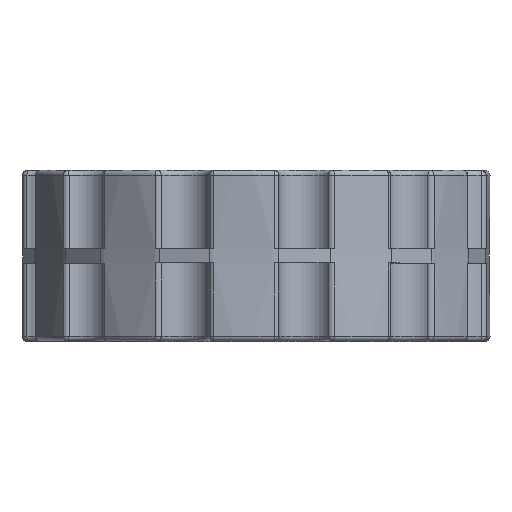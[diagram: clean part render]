
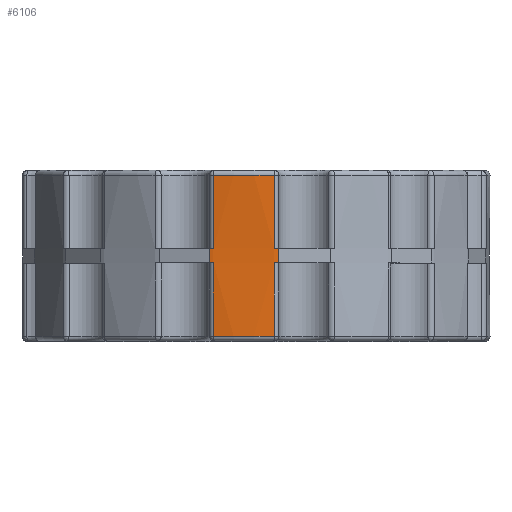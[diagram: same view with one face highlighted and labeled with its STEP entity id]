
A CAD part, top view. The second image highlights one B-rep face of the part: STEP entity #6106.
In plain terms, the highlighted cylindrical face has radius 47.95 mm (diameter 95.9 mm), a partial arc.
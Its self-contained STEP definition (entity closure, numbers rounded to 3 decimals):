
#572=LINE('',#10282,#1094);
#573=LINE('',#10287,#1095);
#574=LINE('',#10291,#1096);
#575=LINE('',#10295,#1097);
#576=LINE('',#10299,#1098);
#577=LINE('',#10303,#1099);
#1094=VECTOR('',#7830,1000.);
#1095=VECTOR('',#7833,1000.);
#1096=VECTOR('',#7836,1000.);
#1097=VECTOR('',#7839,1000.);
#1098=VECTOR('',#7842,1000.);
#1099=VECTOR('',#7845,1000.);
#1834=ORIENTED_EDGE('',*,*,#3661,.T.);
#1835=ORIENTED_EDGE('',*,*,#3662,.T.);
#1836=ORIENTED_EDGE('',*,*,#3663,.T.);
#1837=ORIENTED_EDGE('',*,*,#3664,.T.);
#1838=ORIENTED_EDGE('',*,*,#3665,.T.);
#1839=ORIENTED_EDGE('',*,*,#3666,.T.);
#1840=ORIENTED_EDGE('',*,*,#3667,.F.);
#1841=ORIENTED_EDGE('',*,*,#3668,.T.);
#1842=ORIENTED_EDGE('',*,*,#3669,.T.);
#1843=ORIENTED_EDGE('',*,*,#3670,.T.);
#1844=ORIENTED_EDGE('',*,*,#3671,.T.);
#1845=ORIENTED_EDGE('',*,*,#3672,.T.);
#3661=EDGE_CURVE('',#4558,#4559,#572,.T.);
#3662=EDGE_CURVE('',#4559,#4560,#4945,.F.);
#3663=EDGE_CURVE('',#4560,#4561,#573,.T.);
#3664=EDGE_CURVE('',#4561,#4562,#4946,.F.);
#3665=EDGE_CURVE('',#4562,#4563,#574,.F.);
#3666=EDGE_CURVE('',#4563,#4564,#4947,.F.);
#3667=EDGE_CURVE('',#4565,#4564,#575,.T.);
#3668=EDGE_CURVE('',#4565,#4566,#4948,.T.);
#3669=EDGE_CURVE('',#4566,#4567,#576,.F.);
#3670=EDGE_CURVE('',#4567,#4568,#4949,.T.);
#3671=EDGE_CURVE('',#4568,#4569,#577,.T.);
#3672=EDGE_CURVE('',#4569,#4558,#4950,.T.);
#4558=VERTEX_POINT('',#10283);
#4559=VERTEX_POINT('',#10284);
#4560=VERTEX_POINT('',#10286);
#4561=VERTEX_POINT('',#10288);
#4562=VERTEX_POINT('',#10290);
#4563=VERTEX_POINT('',#10292);
#4564=VERTEX_POINT('',#10294);
#4565=VERTEX_POINT('',#10296);
#4566=VERTEX_POINT('',#10298);
#4567=VERTEX_POINT('',#10300);
#4568=VERTEX_POINT('',#10302);
#4569=VERTEX_POINT('',#10304);
#4945=CIRCLE('',#6676,47.95);
#4946=CIRCLE('',#6677,47.95);
#4947=CIRCLE('',#6678,47.95);
#4948=CIRCLE('',#6679,47.95);
#4949=CIRCLE('',#6680,47.95);
#4950=CIRCLE('',#6681,47.95);
#5204=EDGE_LOOP('',(#1834,#1835,#1836,#1837,#1838,#1839,#1840,#1841,#1842,
#1843,#1844,#1845));
#5622=FACE_BOUND('',#5204,.T.);
#5998=CYLINDRICAL_SURFACE('',#6675,47.95);
#6106=ADVANCED_FACE('',(#5622),#5998,.T.);
#6675=AXIS2_PLACEMENT_3D('',#10281,#7828,#7829);
#6676=AXIS2_PLACEMENT_3D('',#10285,#7831,#7832);
#6677=AXIS2_PLACEMENT_3D('',#10289,#7834,#7835);
#6678=AXIS2_PLACEMENT_3D('',#10293,#7837,#7838);
#6679=AXIS2_PLACEMENT_3D('',#10297,#7840,#7841);
#6680=AXIS2_PLACEMENT_3D('',#10301,#7843,#7844);
#6681=AXIS2_PLACEMENT_3D('',#10305,#7846,#7847);
#7828=DIRECTION('',(0.,1.,0.));
#7829=DIRECTION('',(0.,0.,1.));
#7830=DIRECTION('',(0.,1.,0.));
#7831=DIRECTION('',(0.,1.,0.));
#7832=DIRECTION('',(0.,0.,1.));
#7833=DIRECTION('',(0.,1.,0.));
#7834=DIRECTION('',(0.,1.,0.));
#7835=DIRECTION('',(0.,0.,1.));
#7836=DIRECTION('',(0.,1.,0.));
#7837=DIRECTION('',(0.,1.,0.));
#7838=DIRECTION('',(0.,0.,1.));
#7839=DIRECTION('',(0.,1.,0.));
#7840=DIRECTION('',(0.,1.,0.));
#7841=DIRECTION('',(0.,0.,1.));
#7842=DIRECTION('',(0.,1.,0.));
#7843=DIRECTION('',(0.,1.,0.));
#7844=DIRECTION('',(0.,0.,1.));
#7845=DIRECTION('',(0.,1.,0.));
#7846=DIRECTION('',(0.,1.,0.));
#7847=DIRECTION('',(0.,0.,1.));
#10281=CARTESIAN_POINT('',(0.,-17.5,0.));
#10282=CARTESIAN_POINT('',(4.616,-1.5,47.727));
#10283=CARTESIAN_POINT('',(4.616,-1.5,47.727));
#10284=CARTESIAN_POINT('',(4.616,1.5,47.727));
#10285=CARTESIAN_POINT('',(0.,1.5,0.));
#10286=CARTESIAN_POINT('',(3.738,1.5,47.804));
#10287=CARTESIAN_POINT('',(3.738,-17.5,47.804));
#10288=CARTESIAN_POINT('',(3.738,16.5,47.804));
#10289=CARTESIAN_POINT('',(0.,16.5,0.));
#10290=CARTESIAN_POINT('',(-8.714,16.5,47.152));
#10291=CARTESIAN_POINT('',(-8.714,-17.5,47.152));
#10292=CARTESIAN_POINT('',(-8.714,1.5,47.152));
#10293=CARTESIAN_POINT('',(0.,1.5,0.));
#10294=CARTESIAN_POINT('',(-9.579,1.5,46.983));
#10295=CARTESIAN_POINT('',(-9.579,-1.5,46.983));
#10296=CARTESIAN_POINT('',(-9.579,-1.5,46.983));
#10297=CARTESIAN_POINT('',(0.,-1.5,0.));
#10298=CARTESIAN_POINT('',(-8.714,-1.5,47.152));
#10299=CARTESIAN_POINT('',(-8.714,-17.5,47.152));
#10300=CARTESIAN_POINT('',(-8.714,-16.5,47.152));
#10301=CARTESIAN_POINT('',(0.,-16.5,0.));
#10302=CARTESIAN_POINT('',(3.738,-16.5,47.804));
#10303=CARTESIAN_POINT('',(3.738,-17.5,47.804));
#10304=CARTESIAN_POINT('',(3.738,-1.5,47.804));
#10305=CARTESIAN_POINT('',(0.,-1.5,0.));
